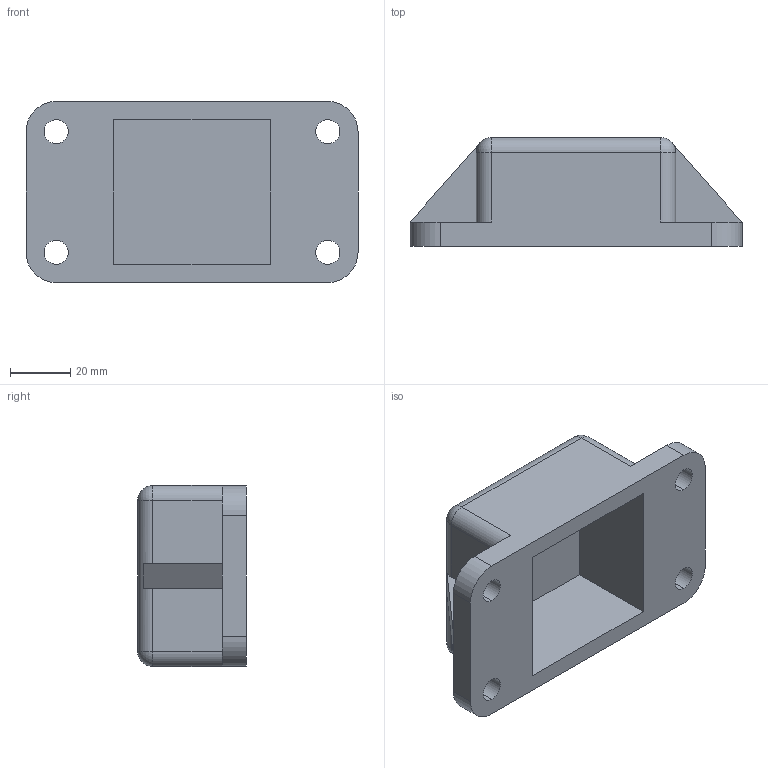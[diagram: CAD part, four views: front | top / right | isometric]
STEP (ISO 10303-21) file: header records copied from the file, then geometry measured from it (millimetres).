
FILE_DESCRIPTION (( 'STEP AP214' ), '1' );
FILE_NAME ('c08_exe04.STEP', '2016-07-26T05:41:48', ( '' ), ( '' ), 'SwSTEP 2.0', 'SolidWorks 2016', '' );
FILE_SCHEMA (( 'AUTOMOTIVE_DESIGN' ));
Length unit declared in the file: millimetre
Products named in the file (1): c08_exe04
Bounding box: 110 x 36 x 60 mm (x, y, z)
Volume: 89020.8 mm3; surface area: 29175.5 mm2
Topology: 1 solids, 1 shells, 49 faces, 126 edges, 76 vertices
Faces by surface type: plane 25, cylinder 20, sphere 4
Entity records: 1502 total; most frequent: DIRECTION 266, CARTESIAN_POINT 248, ORIENTED_EDGE 244, EDGE_CURVE 122, AXIS2_PLACEMENT_3D 94, LINE 78, VECTOR 78, VERTEX_POINT 76
